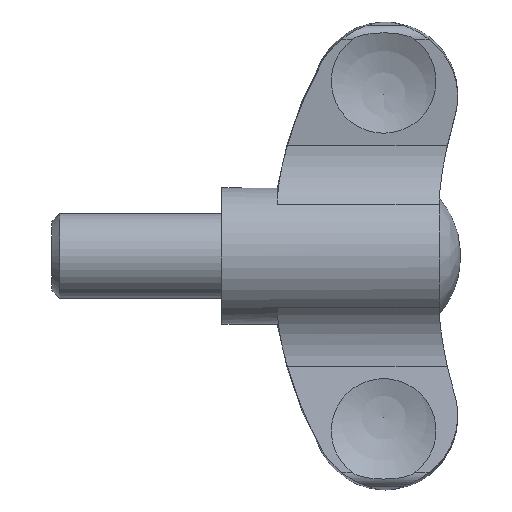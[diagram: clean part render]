
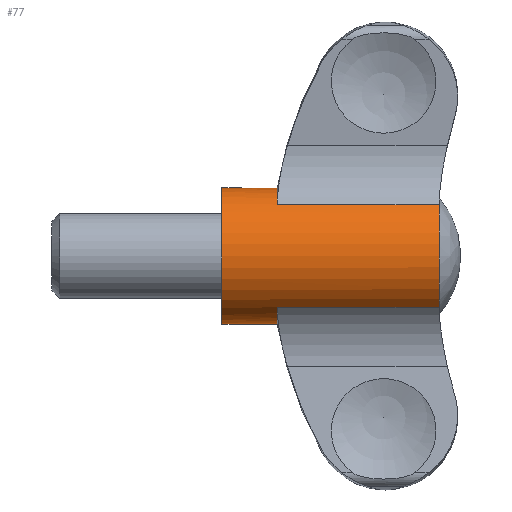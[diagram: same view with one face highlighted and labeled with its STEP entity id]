
A CAD part, top view. The second image highlights one B-rep face of the part: STEP entity #77.
In plain terms, the highlighted cylindrical face has radius 8 mm (diameter 16 mm), a full revolution.
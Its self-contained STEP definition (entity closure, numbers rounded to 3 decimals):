
#77 = ADVANCED_FACE( '', ( #112, #113 ), #114, .T. );
#112 = FACE_OUTER_BOUND( '', #185, .T. );
#113 = FACE_OUTER_BOUND( '', #186, .T. );
#114 = CYLINDRICAL_SURFACE( '', #187, 8. );
#185 = EDGE_LOOP( '', ( #377 ) );
#186 = EDGE_LOOP( '', ( #378, #379, #380, #381, #382, #383, #384, #385 ) );
#187 = AXIS2_PLACEMENT_3D( '', #386, #387, #388 );
#377 = ORIENTED_EDGE( '', *, *, #611, .F. );
#378 = ORIENTED_EDGE( '', *, *, #612, .T. );
#379 = ORIENTED_EDGE( '', *, *, #607, .F. );
#380 = ORIENTED_EDGE( '', *, *, #613, .F. );
#381 = ORIENTED_EDGE( '', *, *, #614, .T. );
#382 = ORIENTED_EDGE( '', *, *, #615, .T. );
#383 = ORIENTED_EDGE( '', *, *, #616, .F. );
#384 = ORIENTED_EDGE( '', *, *, #617, .F. );
#385 = ORIENTED_EDGE( '', *, *, #618, .T. );
#386 = CARTESIAN_POINT( '', ( 0., 0., 0. ) );
#387 = DIRECTION( '', ( 1., 0., 0. ) );
#388 = DIRECTION( '', ( 0., -1., 0. ) );
#607 = EDGE_CURVE( '', #690, #692, #693, .T. );
#611 = EDGE_CURVE( '', #699, #699, #700, .T. );
#612 = EDGE_CURVE( '', #701, #692, #702, .T. );
#613 = EDGE_CURVE( '', #703, #690, #704, .T. );
#614 = EDGE_CURVE( '', #703, #705, #706, .T. );
#615 = EDGE_CURVE( '', #705, #707, #708, .T. );
#616 = EDGE_CURVE( '', #709, #707, #710, .T. );
#617 = EDGE_CURVE( '', #711, #709, #712, .T. );
#618 = EDGE_CURVE( '', #711, #701, #713, .T. );
#690 = VERTEX_POINT( '', #820 );
#692 = VERTEX_POINT( '', #834 );
#693 = LINE( '', #835, #836 );
#699 = VERTEX_POINT( '', #856 );
#700 = CIRCLE( '', #857, 8. );
#701 = VERTEX_POINT( '', #858 );
#702 = CIRCLE( '', #859, 8. );
#703 = VERTEX_POINT( '', #860 );
#704 = CIRCLE( '', #861, 8. );
#705 = VERTEX_POINT( '', #862 );
#706 = LINE( '', #863, #864 );
#707 = VERTEX_POINT( '', #865 );
#708 = CIRCLE( '', #866, 8. );
#709 = VERTEX_POINT( '', #867 );
#710 = LINE( '', #868, #869 );
#711 = VERTEX_POINT( '', #870 );
#712 = CIRCLE( '', #871, 8. );
#713 = LINE( '', #872, #873 );
#820 = CARTESIAN_POINT( '', ( 25.538, -6.036, 5.25 ) );
#834 = CARTESIAN_POINT( '', ( 6.5, -6.036, 5.25 ) );
#835 = CARTESIAN_POINT( '', ( 31.5, -6.036, 5.25 ) );
#836 = VECTOR( '', #1471, 1000. );
#856 = CARTESIAN_POINT( '', ( 0., -8., 0. ) );
#857 = AXIS2_PLACEMENT_3D( '', #1476, #1477, #1478 );
#858 = CARTESIAN_POINT( '', ( 6.5, -6.036, -5.25 ) );
#859 = AXIS2_PLACEMENT_3D( '', #1479, #1480, #1481 );
#860 = CARTESIAN_POINT( '', ( 25.538, 6.036, 5.25 ) );
#861 = AXIS2_PLACEMENT_3D( '', #1482, #1483, #1484 );
#862 = CARTESIAN_POINT( '', ( 6.5, 6.036, 5.25 ) );
#863 = CARTESIAN_POINT( '', ( 31.5, 6.036, 5.25 ) );
#864 = VECTOR( '', #1485, 1000. );
#865 = CARTESIAN_POINT( '', ( 6.5, 6.036, -5.25 ) );
#866 = AXIS2_PLACEMENT_3D( '', #1486, #1487, #1488 );
#867 = CARTESIAN_POINT( '', ( 25.538, 6.036, -5.25 ) );
#868 = CARTESIAN_POINT( '', ( 31.5, 6.036, -5.25 ) );
#869 = VECTOR( '', #1489, 1000. );
#870 = CARTESIAN_POINT( '', ( 25.538, -6.036, -5.25 ) );
#871 = AXIS2_PLACEMENT_3D( '', #1490, #1491, #1492 );
#872 = CARTESIAN_POINT( '', ( 31.5, -6.036, -5.25 ) );
#873 = VECTOR( '', #1493, 1000. );
#1471 = DIRECTION( '', ( -1., 0., 0. ) );
#1476 = CARTESIAN_POINT( '', ( 0., 0., 0. ) );
#1477 = DIRECTION( '', ( -1., 0., 0. ) );
#1478 = DIRECTION( '', ( 0., -1., 0. ) );
#1479 = CARTESIAN_POINT( '', ( 6.5, 0., 0. ) );
#1480 = DIRECTION( '', ( -1., 0., 0. ) );
#1481 = DIRECTION( '', ( 0., -1., 0. ) );
#1482 = CARTESIAN_POINT( '', ( 25.538, 0., 0. ) );
#1483 = DIRECTION( '', ( 1., 0., 0. ) );
#1484 = DIRECTION( '', ( 0., 1., 0. ) );
#1485 = DIRECTION( '', ( -1., 0., 0. ) );
#1486 = CARTESIAN_POINT( '', ( 6.5, 0., 0. ) );
#1487 = DIRECTION( '', ( -1., 0., 0. ) );
#1488 = DIRECTION( '', ( 0., -1., 0. ) );
#1489 = DIRECTION( '', ( -1., 0., 0. ) );
#1490 = CARTESIAN_POINT( '', ( 25.538, 0., 0. ) );
#1491 = DIRECTION( '', ( 1., 0., 0. ) );
#1492 = DIRECTION( '', ( 0., 1., 0. ) );
#1493 = DIRECTION( '', ( -1., 0., 0. ) );
